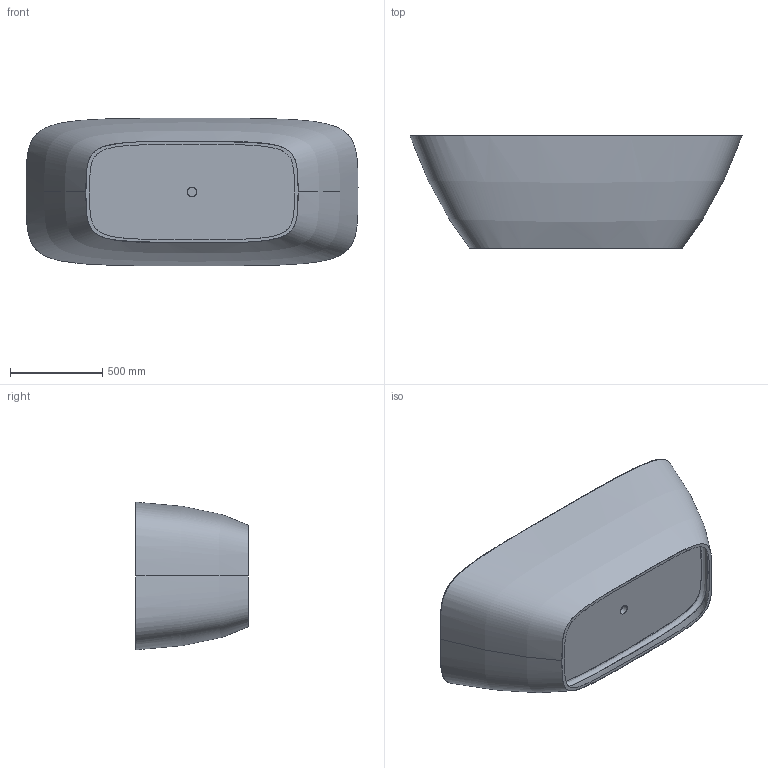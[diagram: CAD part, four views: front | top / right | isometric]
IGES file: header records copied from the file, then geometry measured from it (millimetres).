
Start section: SolidWorks IGES file using analytic representation for surfaces
Global section: file name: D:\Users\M.Szymanski\Desktop\Wanny\LaSenia\03. do przegrania\WP_LaSENIA_80x180.IGS; native system: SolidWorks 2011; preprocessor: SolidWorks 2011; author: M.Szymanski; date: 180522.120156; units: millimetre
Bounding box: 1799.51 x 610 x 799.93 mm (x, y, z)
Surface area: 6389069.3 mm2 (no closed solid volume)
Topology: 0 solids, 0 shells, 54 faces, 1907 edges, 1906 vertices
Faces by surface type: bspline 42, revolution 12
